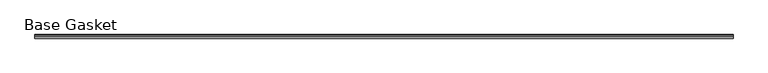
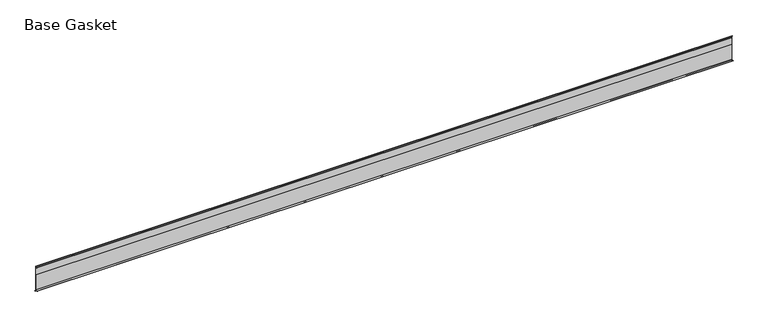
"""IFC4 building model written with IfcOpenShell, lengths in millimetres: furniture geometry, Gasket-Teknion-FHGB-AI_Healthcare-R2021 : Base Gasket."""

from ifc_helpers import new_model, si_unit, frame, origin, place, context, project, spatial, polyline, outline, extrude, source, transform, mapped, element, save


def base_gasket_2709caf7(model_context):
    return source(origin(), model_context, "Body", "SweptSolid", [
        extrude(outline(polyline([(3.7283812, 98.4568417), (3.7283812, 4.3498477), (7.4222115, 0.6560174), (7.8482342, 0.0), (6.8281054, 0.3520979), (2.2043812, 4.3498477), (2.1334222, 6.3818476), (-6.2405171, 6.3818476), (-6.2405171, 7.9398773), (2.2043812, 7.9398773), (2.2043812, 71.4693447), (1.4106313, 71.4693447), (1.4106313, 96.8693477), (2.2043812, 96.8693477), (2.2043812, 98.4568417), (0.6755308, 104.4162708), (0.6755308, 105.2002997), (1.1891543, 104.587663), (3.7283812, 98.4568417)])), frame((-1527.8982117, 0.0, 0.0), z_axis=(1.0, 0.0, 0.0), x_axis=(0.0, 1.0, 0.0)), (0.0, 0.0, 1.0), 2714.0408),
    ])


if __name__ == "__main__":
    model = new_model("IFC4")
    model_context = context("Model", 3, world=origin())
    ifc_project = project(units=[si_unit("LENGTHUNIT", "METRE", prefix="MILLI")], contexts=[model_context])
    site = spatial("IfcSite", under=ifc_project)
    building = spatial("IfcBuilding", under=site)
    placement = place(None, origin())
    base_gasket_shape = base_gasket_2709caf7(model_context)
    element("IfcFurniture", 1, ObjectType="Gasket-Teknion-FHGB-AI_Healthcare-R2021 : Base Gasket", at=placement, inside=building, context=model_context, shape_type="MappedRepresentation", body=[
        mapped(base_gasket_shape, transform((0.0, 0.0, 0.0), x_axis=(1.0, 0.0, 0.0), y_axis=(0.0, 1.0, 0.0), z_axis=(0.0, 0.0, 1.0))),
    ])
    save(model, "model.ifc")
